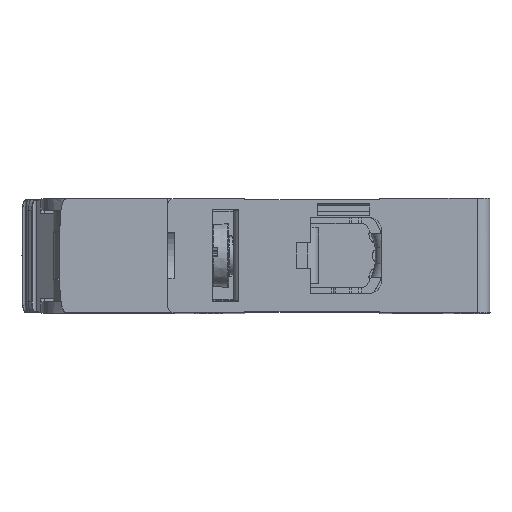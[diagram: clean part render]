
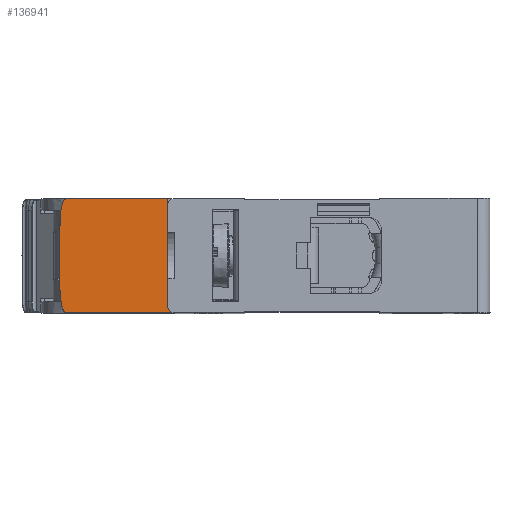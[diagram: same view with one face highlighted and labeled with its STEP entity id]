
A CAD part, top view. The second image highlights one B-rep face of the part: STEP entity #136941.
In plain terms, the highlighted planar face has unit normal (0, 0, 1) as drawn and (0, 1, 0) by its records, which use the part's own axes.
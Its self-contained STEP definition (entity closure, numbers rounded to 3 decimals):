
#72 = EDGE_CURVE ( 'NONE', #15629, #67638, #125082, .T. ) ;
#4126 = CARTESIAN_POINT ( 'NONE',  ( 16.8, 63.25, 15.673 ) ) ;
#5390 = AXIS2_PLACEMENT_3D ( 'NONE', #10087, #109093, #59585 ) ;
#6757 = CARTESIAN_POINT ( 'NONE',  ( 7.9, 63.25, -0.8 ) ) ;
#8309 = AXIS2_PLACEMENT_3D ( 'NONE', #27935, #39454, #142556 ) ;
#9051 = CARTESIAN_POINT ( 'NONE',  ( 16.8, 63.25, -0.8 ) ) ;
#9253 = ORIENTED_EDGE ( 'NONE', *, *, #42537, .F. ) ;
#10087 = CARTESIAN_POINT ( 'NONE',  ( 1.05, 63.25, -0.3 ) ) ;
#10297 = DIRECTION ( 'NONE',  ( 1., 0., 0. ) ) ;
#12226 = EDGE_LOOP ( 'NONE', ( #118101, #14250, #34129, #37243, #25916, #111305, #40954, #86381, #9253, #44150, #36883, #154467, #74383 ) ) ;
#14250 = ORIENTED_EDGE ( 'NONE', *, *, #72, .T. ) ;
#15629 = VERTEX_POINT ( 'NONE', #80588 ) ;
#17169 = LINE ( 'NONE', #142551, #49895 ) ;
#17632 = CARTESIAN_POINT ( 'NONE',  ( 16.8, 63.25, -1. ) ) ;
#18289 = LINE ( 'NONE', #9051, #62859 ) ;
#21387 = VERTEX_POINT ( 'NONE', #105747 ) ;
#24793 = VERTEX_POINT ( 'NONE', #75937 ) ;
#25916 = ORIENTED_EDGE ( 'NONE', *, *, #159127, .T. ) ;
#26404 = CIRCLE ( 'NONE', #5390, 0.5 ) ;
#27605 = LINE ( 'NONE', #129004, #105782 ) ;
#27935 = CARTESIAN_POINT ( 'NONE',  ( 15., 63.25, 15.92 ) ) ;
#31195 = CARTESIAN_POINT ( 'NONE',  ( 16.8, 63.25, -0.8 ) ) ;
#34129 = ORIENTED_EDGE ( 'NONE', *, *, #91634, .F. ) ;
#34971 = VERTEX_POINT ( 'NONE', #6757 ) ;
#35255 = VERTEX_POINT ( 'NONE', #132671 ) ;
#36883 = ORIENTED_EDGE ( 'NONE', *, *, #106810, .F. ) ;
#37243 = ORIENTED_EDGE ( 'NONE', *, *, #97590, .F. ) ;
#37728 = VECTOR ( 'NONE', #88112, 1000. ) ;
#39449 = DIRECTION ( 'NONE',  ( 1., 0., 0. ) ) ;
#39454 = DIRECTION ( 'NONE',  ( 0., -1., 0. ) ) ;
#40954 = ORIENTED_EDGE ( 'NONE', *, *, #162143, .F. ) ;
#42537 = EDGE_CURVE ( 'NONE', #61036, #86289, #82898, .T. ) ;
#42750 = CARTESIAN_POINT ( 'NONE',  ( 9.183, 63.25, 16.872 ) ) ;
#43709 = AXIS2_PLACEMENT_3D ( 'NONE', #48555, #100554, #88950 ) ;
#44150 = ORIENTED_EDGE ( 'NONE', *, *, #63402, .T. ) ;
#47770 = CARTESIAN_POINT ( 'NONE',  ( 6.617, 63.25, 16.872 ) ) ;
#48555 = CARTESIAN_POINT ( 'NONE',  ( 15.8, 63.25, -1. ) ) ;
#49895 = VECTOR ( 'NONE', #39449, 1000. ) ;
#50657 = VECTOR ( 'NONE', #10297, 1000. ) ;
#54329 = CARTESIAN_POINT ( 'NONE',  ( 10.959, 63.25, 16.871 ) ) ;
#56627 = B_SPLINE_CURVE_WITH_KNOTS ( 'NONE', 5,
 ( #47770, #161516, #113739, #136815, #60190, #137635 ),
 .UNSPECIFIED., .F., .F.,
 ( 6, 6 ),
 ( 0.112, 7.874 ),
 .UNSPECIFIED. ) ;
#59585 = DIRECTION ( 'NONE',  ( 1., 0., 0. ) ) ;
#60190 = CARTESIAN_POINT ( 'NONE',  ( -0.918, 63.25, 16.21 ) ) ;
#61036 = VERTEX_POINT ( 'NONE', #73356 ) ;
#62255 = CIRCLE ( 'NONE', #43709, 1. ) ;
#62859 = VECTOR ( 'NONE', #104225, 1000. ) ;
#63402 = EDGE_CURVE ( 'NONE', #61036, #34971, #103425, .T. ) ;
#63482 = FACE_OUTER_BOUND ( 'NONE', #12226, .T. ) ;
#64640 = CARTESIAN_POINT ( 'NONE',  ( 7.9, 63.25, -0.1 ) ) ;
#64721 = DIRECTION ( 'NONE',  ( 0., 0., 1. ) ) ;
#66617 = VECTOR ( 'NONE', #103722, 1000. ) ;
#67638 = VERTEX_POINT ( 'NONE', #142899 ) ;
#72070 = VECTOR ( 'NONE', #88750, 1000. ) ;
#73314 = B_SPLINE_CURVE_WITH_KNOTS ( 'NONE', 5,
 ( #4126, #131815, #103912, #120253, #54329, #42750 ),
 .UNSPECIFIED., .F., .F.,
 ( 6, 6 ),
 ( 0.112, 7.874 ),
 .UNSPECIFIED. ) ;
#73356 = CARTESIAN_POINT ( 'NONE',  ( 7.9, 63.25, 0. ) ) ;
#74383 = ORIENTED_EDGE ( 'NONE', *, *, #136326, .T. ) ;
#75937 = CARTESIAN_POINT ( 'NONE',  ( 16.8, 63.25, 15.673 ) ) ;
#78197 = CARTESIAN_POINT ( 'NONE',  ( 16.8, 63.25, 15.92 ) ) ;
#80496 = EDGE_CURVE ( 'NONE', #24793, #87367, #73314, .T. ) ;
#80588 = CARTESIAN_POINT ( 'NONE',  ( 0.55, 63.25, 0.1 ) ) ;
#82898 = LINE ( 'NONE', #146423, #50657 ) ;
#86289 = VERTEX_POINT ( 'NONE', #132542 ) ;
#86381 = ORIENTED_EDGE ( 'NONE', *, *, #126574, .T. ) ;
#87367 = VERTEX_POINT ( 'NONE', #103872 ) ;
#88112 = DIRECTION ( 'NONE',  ( 0., 0., 1. ) ) ;
#88750 = DIRECTION ( 'NONE',  ( -1., 0., 0. ) ) ;
#88950 = DIRECTION ( 'NONE',  ( 0., 0., 1. ) ) ;
#90185 = DIRECTION ( 'NONE',  ( 0., 0., -1. ) ) ;
#91634 = EDGE_CURVE ( 'NONE', #35255, #67638, #92119, .T. ) ;
#92119 = LINE ( 'NONE', #144052, #66617 ) ;
#96677 = EDGE_CURVE ( 'NONE', #109704, #123638, #18289, .T. ) ;
#97590 = EDGE_CURVE ( 'NONE', #109700, #35255, #56627, .T. ) ;
#99903 = EDGE_CURVE ( 'NONE', #21387, #15629, #27605, .T. ) ;
#100554 = DIRECTION ( 'NONE',  ( 0., -1., 0. ) ) ;
#103425 = LINE ( 'NONE', #64640, #152578 ) ;
#103722 = DIRECTION ( 'NONE',  ( 0., 0., -1. ) ) ;
#103872 = CARTESIAN_POINT ( 'NONE',  ( 9.183, 63.25, 16.872 ) ) ;
#103912 = CARTESIAN_POINT ( 'NONE',  ( 16.637, 63.25, 16.747 ) ) ;
#104225 = DIRECTION ( 'NONE',  ( 1., 0., 0. ) ) ;
#105747 = CARTESIAN_POINT ( 'NONE',  ( 0.55, 63.25, -0.3 ) ) ;
#105782 = VECTOR ( 'NONE', #64721, 1000. ) ;
#106810 = EDGE_CURVE ( 'NONE', #123638, #34971, #117037, .T. ) ;
#108062 = VECTOR ( 'NONE', #153323, 1000. ) ;
#109093 = DIRECTION ( 'NONE',  ( 0., 1., 0. ) ) ;
#109700 = VERTEX_POINT ( 'NONE', #146753 ) ;
#109704 = VERTEX_POINT ( 'NONE', #135970 ) ;
#111305 = ORIENTED_EDGE ( 'NONE', *, *, #80496, .F. ) ;
#113739 = CARTESIAN_POINT ( 'NONE',  ( 2.489, 63.25, 16.855 ) ) ;
#115327 = LINE ( 'NONE', #78197, #37728 ) ;
#117037 = LINE ( 'NONE', #31195, #108062 ) ;
#118101 = ORIENTED_EDGE ( 'NONE', *, *, #99903, .T. ) ;
#120253 = CARTESIAN_POINT ( 'NONE',  ( 13.311, 63.25, 16.855 ) ) ;
#123638 = VERTEX_POINT ( 'NONE', #148801 ) ;
#125082 = LINE ( 'NONE', #149805, #72070 ) ;
#126574 = EDGE_CURVE ( 'NONE', #148678, #86289, #62255, .T. ) ;
#129004 = CARTESIAN_POINT ( 'NONE',  ( 0.55, 63.25, -0.583 ) ) ;
#131815 = CARTESIAN_POINT ( 'NONE',  ( 16.718, 63.25, 16.21 ) ) ;
#132542 = CARTESIAN_POINT ( 'NONE',  ( 15.8, 63.25, 0. ) ) ;
#132671 = CARTESIAN_POINT ( 'NONE',  ( -1., 63.25, 15.673 ) ) ;
#135970 = CARTESIAN_POINT ( 'NONE',  ( 1.05, 63.25, -0.8 ) ) ;
#136326 = EDGE_CURVE ( 'NONE', #109704, #21387, #26404, .T. ) ;
#136815 = CARTESIAN_POINT ( 'NONE',  ( -0.837, 63.25, 16.747 ) ) ;
#136941 = ADVANCED_FACE ( 'NONE', ( #63482 ), #160706, .F. ) ;
#137635 = CARTESIAN_POINT ( 'NONE',  ( -1., 63.25, 15.673 ) ) ;
#142551 = CARTESIAN_POINT ( 'NONE',  ( -2.849, 63.25, 16.872 ) ) ;
#142556 = DIRECTION ( 'NONE',  ( 1., 0., 0. ) ) ;
#142899 = CARTESIAN_POINT ( 'NONE',  ( -1., 63.25, 0.1 ) ) ;
#144052 = CARTESIAN_POINT ( 'NONE',  ( -1., 63.25, 15.92 ) ) ;
#146423 = CARTESIAN_POINT ( 'NONE',  ( 15., 63.25, 0. ) ) ;
#146753 = CARTESIAN_POINT ( 'NONE',  ( 6.617, 63.25, 16.872 ) ) ;
#148678 = VERTEX_POINT ( 'NONE', #17632 ) ;
#148801 = CARTESIAN_POINT ( 'NONE',  ( 7.4, 63.25, -0.8 ) ) ;
#149805 = CARTESIAN_POINT ( 'NONE',  ( 19.904, 63.25, 0.1 ) ) ;
#152578 = VECTOR ( 'NONE', #90185, 1000. ) ;
#153323 = DIRECTION ( 'NONE',  ( 1., 0., 0. ) ) ;
#154467 = ORIENTED_EDGE ( 'NONE', *, *, #96677, .F. ) ;
#159127 = EDGE_CURVE ( 'NONE', #109700, #87367, #17169, .T. ) ;
#160706 = PLANE ( 'NONE',  #8309 ) ;
#161516 = CARTESIAN_POINT ( 'NONE',  ( 4.841, 63.25, 16.871 ) ) ;
#162143 = EDGE_CURVE ( 'NONE', #148678, #24793, #115327, .T. ) ;
